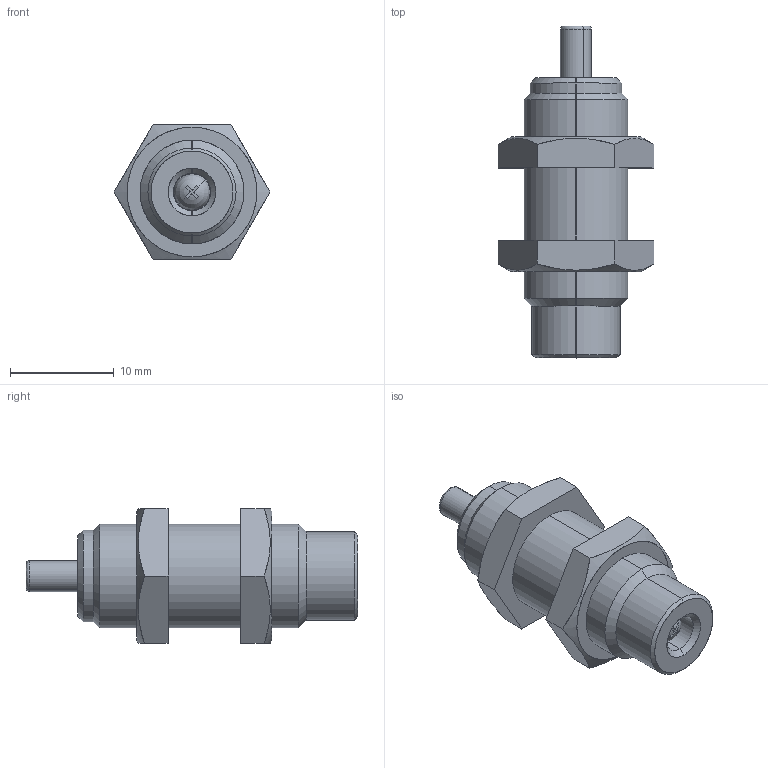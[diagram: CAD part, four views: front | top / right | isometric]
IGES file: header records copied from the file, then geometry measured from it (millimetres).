
Start section: SolidWorks IGES file using analytic representation for surfaces
Bounding box: 15.01 x 32 x 13 mm (x, y, z)
Surface area: 1655.4 mm2 (no closed solid volume)
Topology: 0 solids, 0 shells, 68 faces, 814 edges, 814 vertices
Faces by surface type: revolution 34, bspline 34
